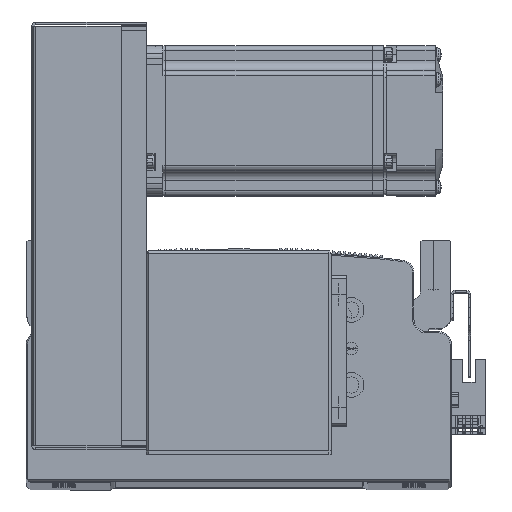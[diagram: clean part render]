
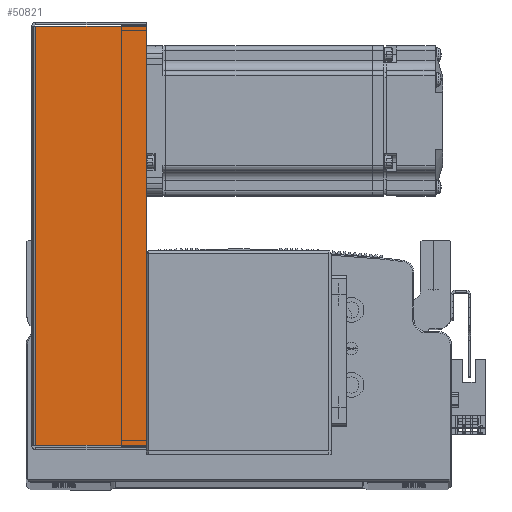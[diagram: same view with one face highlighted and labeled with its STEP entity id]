
A CAD part, top view. The second image highlights one B-rep face of the part: STEP entity #50821.
In plain terms, the highlighted planar face has unit normal (0, 0, 1) as drawn and (0, 0, -1) by its records, which use the part's own axes.
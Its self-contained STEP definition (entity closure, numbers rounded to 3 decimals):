
#1674 = CARTESIAN_POINT ( 'NONE',  ( -83.793, 45., -40.5 ) ) ;
#1688 = CARTESIAN_POINT ( 'NONE',  ( -83.793, 0.737, -40.5 ) ) ;
#1760 = CARTESIAN_POINT ( 'NONE',  ( 83.793, 45., -40.5 ) ) ;
#1762 = CARTESIAN_POINT ( 'NONE',  ( 83.793, 0.737, -40.5 ) ) ;
#23149 = EDGE_LOOP ( 'NONE', ( #60565, #60487, #60586, #60556 ) ) ;
#32893 = VERTEX_POINT ( 'NONE', #1688 ) ;
#32903 = VERTEX_POINT ( 'NONE', #1674 ) ;
#32919 = VERTEX_POINT ( 'NONE', #1760 ) ;
#32934 = VERTEX_POINT ( 'NONE', #1762 ) ;
#48333 = AXIS2_PLACEMENT_3D ( 'NONE', #65041, #64980, #65007 ) ;
#50821 = ADVANCED_FACE ( 'NONE', ( #56415 ), #64930, .F. ) ;
#56415 = FACE_OUTER_BOUND ( 'NONE', #23149, .T. ) ;
#60487 = ORIENTED_EDGE ( 'NONE', *, *, #61501, .T. ) ;
#60556 = ORIENTED_EDGE ( 'NONE', *, *, #61529, .F. ) ;
#60565 = ORIENTED_EDGE ( 'NONE', *, *, #61510, .F. ) ;
#60586 = ORIENTED_EDGE ( 'NONE', *, *, #61445, .T. ) ;
#61445 = EDGE_CURVE ( 'NONE', #32903, #32919, #67509, .T. ) ;
#61501 = EDGE_CURVE ( 'NONE', #32893, #32903, #67593, .T. ) ;
#61510 = EDGE_CURVE ( 'NONE', #32893, #32934, #67573, .T. ) ;
#61529 = EDGE_CURVE ( 'NONE', #32934, #32919, #67567, .T. ) ;
#64930 = PLANE ( 'NONE',  #48333 ) ;
#64980 = DIRECTION ( 'NONE',  ( 0., 0., 1. ) ) ;
#65007 = DIRECTION ( 'NONE',  ( 0., -1., 0. ) ) ;
#65041 = CARTESIAN_POINT ( 'NONE',  ( 0., 0., -40.5 ) ) ;
#67509 = LINE ( 'NONE', #71745, #67531 ) ;
#67531 = VECTOR ( 'NONE', #71762, 1000. ) ;
#67567 = LINE ( 'NONE', #72026, #67583 ) ;
#67573 = LINE ( 'NONE', #71936, #67599 ) ;
#67583 = VECTOR ( 'NONE', #72037, 1000. ) ;
#67586 = VECTOR ( 'NONE', #71904, 1000. ) ;
#67593 = LINE ( 'NONE', #71911, #67586 ) ;
#67599 = VECTOR ( 'NONE', #71973, 1000. ) ;
#71745 = CARTESIAN_POINT ( 'NONE',  ( 84.5, 45., -40.5 ) ) ;
#71762 = DIRECTION ( 'NONE',  ( 1., 0., 0. ) ) ;
#71904 = DIRECTION ( 'NONE',  ( 0., 1., 0. ) ) ;
#71911 = CARTESIAN_POINT ( 'NONE',  ( -83.793, 0., -40.5 ) ) ;
#71936 = CARTESIAN_POINT ( 'NONE',  ( 0., 0.737, -40.5 ) ) ;
#71973 = DIRECTION ( 'NONE',  ( 1., 0., 0. ) ) ;
#72026 = CARTESIAN_POINT ( 'NONE',  ( 83.793, 0., -40.5 ) ) ;
#72037 = DIRECTION ( 'NONE',  ( 0., 1., 0. ) ) ;
